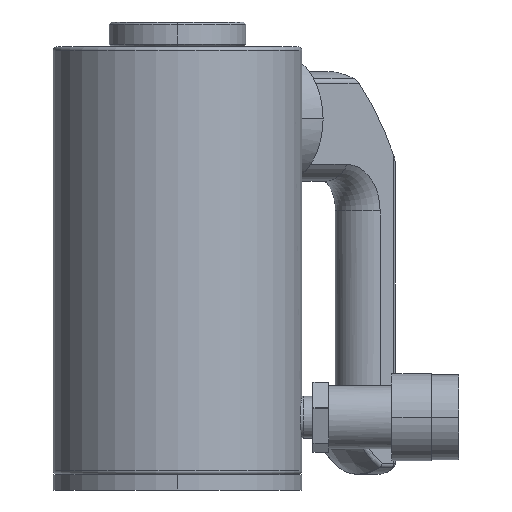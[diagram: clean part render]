
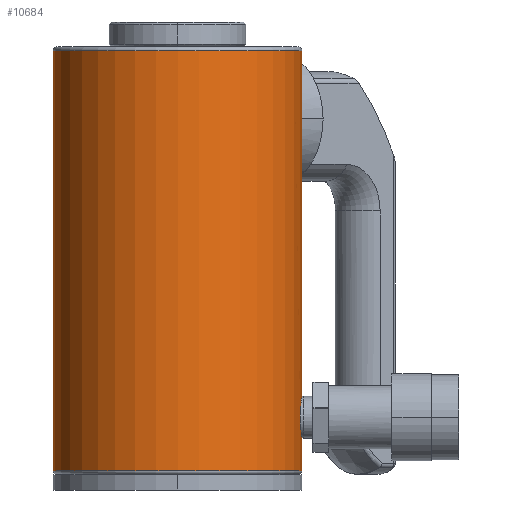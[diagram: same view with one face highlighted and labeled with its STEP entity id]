
A CAD part, left-side view. The second image highlights one B-rep face of the part: STEP entity #10684.
In plain terms, the highlighted cylindrical face has radius 50 mm (diameter 100 mm), a partial arc.
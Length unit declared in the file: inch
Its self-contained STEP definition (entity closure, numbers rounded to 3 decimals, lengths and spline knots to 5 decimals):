
#31=CARTESIAN_POINT('',(0.,-1.9685,-4.392));
#32=CARTESIAN_POINT('',(-0.00766,-1.9685,
-4.392));
#33=CARTESIAN_POINT('',(-0.02295,-1.96841,
-4.39253));
#34=CARTESIAN_POINT('',(-0.04584,-1.96801,
-4.39492));
#35=CARTESIAN_POINT('',(-0.06848,-1.96736,
-4.3989));
#36=CARTESIAN_POINT('',(-0.09087,-1.96645,
-4.40446));
#37=CARTESIAN_POINT('',(-0.11281,-1.96531,
-4.41156));
#38=CARTESIAN_POINT('',(-0.13428,-1.96396,
-4.42021));
#39=CARTESIAN_POINT('',(-0.1551,-1.96242,
-4.43034));
#40=CARTESIAN_POINT('',(-0.17523,-1.96072,
-4.44193));
#41=CARTESIAN_POINT('',(-0.19451,-1.9589,
-4.45493));
#42=CARTESIAN_POINT('',(-0.21286,-1.95699,
-4.46926));
#43=CARTESIAN_POINT('',(-0.23019,-1.95502,
-4.48488));
#44=CARTESIAN_POINT('',(-0.24637,-1.95305,
-4.50165));
#45=CARTESIAN_POINT('',(-0.26136,-1.95109,
-4.51956));
#46=CARTESIAN_POINT('',(-0.27503,-1.94921,
-4.53843));
#47=CARTESIAN_POINT('',(-0.28736,-1.94743,
-4.55823));
#48=CARTESIAN_POINT('',(-0.29824,-1.94579,
-4.57879));
#49=CARTESIAN_POINT('',(-0.30766,-1.94432,
-4.60007));
#50=CARTESIAN_POINT('',(-0.31556,-1.94305,
-4.6219));
#51=CARTESIAN_POINT('',(-0.32191,-1.94201,
-4.64419));
#52=CARTESIAN_POINT('',(-0.3267,-1.94121,
-4.66687));
#53=CARTESIAN_POINT('',(-0.32989,-1.94066,
-4.68977));
#54=CARTESIAN_POINT('',(-0.3315,-1.94039,
-4.71286));
#55=CARTESIAN_POINT('',(-0.3315,-1.94039,
-4.73595));
#56=CARTESIAN_POINT('',(-0.32989,-1.94066,
-4.75905));
#57=CARTESIAN_POINT('',(-0.3267,-1.94121,
-4.78195));
#58=CARTESIAN_POINT('',(-0.32191,-1.94201,
-4.80462));
#59=CARTESIAN_POINT('',(-0.31556,-1.94305,
-4.82692));
#60=CARTESIAN_POINT('',(-0.30766,-1.94432,
-4.84875));
#61=CARTESIAN_POINT('',(-0.29824,-1.94579,
-4.87002));
#62=CARTESIAN_POINT('',(-0.28736,-1.94743,
-4.89058));
#63=CARTESIAN_POINT('',(-0.27503,-1.94921,
-4.91039));
#64=CARTESIAN_POINT('',(-0.26136,-1.95109,
-4.92926));
#65=CARTESIAN_POINT('',(-0.24637,-1.95305,
-4.94717));
#66=CARTESIAN_POINT('',(-0.23019,-1.95502,
-4.96394));
#67=CARTESIAN_POINT('',(-0.21286,-1.95699,
-4.97956));
#68=CARTESIAN_POINT('',(-0.19451,-1.9589,
-4.99389));
#69=CARTESIAN_POINT('',(-0.17523,-1.96072,
-5.00688));
#70=CARTESIAN_POINT('',(-0.1551,-1.96242,
-5.01848));
#71=CARTESIAN_POINT('',(-0.13428,-1.96396,
-5.02861));
#72=CARTESIAN_POINT('',(-0.11281,-1.96531,
-5.03726));
#73=CARTESIAN_POINT('',(-0.09087,-1.96645,
-5.04436));
#74=CARTESIAN_POINT('',(-0.06848,-1.96736,
-5.04992));
#75=CARTESIAN_POINT('',(-0.04584,-1.96801,
-5.05389));
#76=CARTESIAN_POINT('',(-0.02295,-1.96841,
-5.05629));
#77=CARTESIAN_POINT('',(-0.00766,-1.9685,
-5.05682));
#78=CARTESIAN_POINT('',(0.,-1.9685,-5.05682));
#80=DIRECTION('',(0.,0.,1.));
#81=VECTOR('',#80,0.51405);
#82=CARTESIAN_POINT('',(0.,-1.9685,-5.57087));
#83=LINE('',#82,#81);
#84=CARTESIAN_POINT('',(0.,0.,-5.57087));
#85=DIRECTION('',(0.,0.,1.));
#86=DIRECTION('',(0.,1.,0.));
#87=AXIS2_PLACEMENT_3D('',#84,#85,#86);
#89=DIRECTION('',(0.,0.,1.));
#90=VECTOR('',#89,6.65354);
#91=CARTESIAN_POINT('',(0.,1.9685,-5.57087));
#92=LINE('',#91,#90);
#93=CARTESIAN_POINT('',(0.,0.,1.08268));
#94=DIRECTION('',(0.,0.,1.));
#95=DIRECTION('',(0.,1.,0.));
#96=AXIS2_PLACEMENT_3D('',#93,#94,#95);
#98=DIRECTION('',(0.,0.,1.));
#99=VECTOR('',#98,5.47468);
#100=CARTESIAN_POINT('',(0.,-1.9685,-4.392));
#101=LINE('',#100,#99);
#120=CARTESIAN_POINT('',(0.,-1.9685,-5.05682));
#167=CARTESIAN_POINT('',(0.,-1.9685,-4.392));
#9206=CARTESIAN_POINT('',(0.,-1.9685,1.08268));
#9207=CARTESIAN_POINT('',(0.,1.9685,1.08268));
#9208=VERTEX_POINT('',#9206);
#9209=VERTEX_POINT('',#9207);
#9210=CARTESIAN_POINT('',(0.,-1.9685,-5.57087));
#9211=CARTESIAN_POINT('',(0.,1.9685,-5.57087));
#9212=VERTEX_POINT('',#9210);
#9213=VERTEX_POINT('',#9211);
#10280=VERTEX_POINT('',#120);
#10281=VERTEX_POINT('',#167);
#10666=CARTESIAN_POINT('',(0.,0.,1.48031));
#10667=DIRECTION('',(0.,0.,-1.));
#10668=DIRECTION('',(0.,-1.,0.));
#10669=AXIS2_PLACEMENT_3D('',#10666,#10667,#10668);
#10670=CYLINDRICAL_SURFACE('',#10669,1.9685);
#10672=ORIENTED_EDGE('',*,*,#10671,.T.);
#10674=ORIENTED_EDGE('',*,*,#10673,.F.);
#10676=ORIENTED_EDGE('',*,*,#10675,.F.);
#10678=ORIENTED_EDGE('',*,*,#10677,.T.);
#10679=ORIENTED_EDGE('',*,*,#10660,.T.);
#10681=ORIENTED_EDGE('',*,*,#10680,.F.);
#10682=EDGE_LOOP('',(#10672,#10674,#10676,#10678,#10679,#10681));
#10683=FACE_OUTER_BOUND('',#10682,.F.);
#10684=ADVANCED_FACE('',(#10683),#10670,.T.);
#79=B_SPLINE_CURVE_WITH_KNOTS('',3,(#31,#32,#33,#34,#35,#36,#37,#38,#39,#40,#41,
#42,#43,#44,#45,#46,#47,#48,#49,#50,#51,#52,#53,#54,#55,#56,#57,#58,#59,#60,#61,
#62,#63,#64,#65,#66,#67,#68,#69,#70,#71,#72,#73,#74,#75,#76,#77,#78),
.UNSPECIFIED.,.F.,.F.,(4,1,1,1,1,1,1,1,1,1,1,1,1,1,1,1,1,1,1,1,1,1,1,1,1,1,1,1,
1,1,1,1,1,1,1,1,1,1,1,1,1,1,1,1,1,4),(0.,0.02222,0.04444,
0.06667,0.08889,0.11111,0.13333,
0.15556,0.17778,0.2,0.22222,0.24444,
0.26667,0.28889,0.31111,0.33333,
0.35556,0.37778,0.4,0.42222,0.44444,
0.46667,0.48889,0.51111,0.53333,
0.55556,0.57778,0.6,0.62222,0.64444,
0.66667,0.68889,0.71111,0.73333,
0.75556,0.77778,0.8,0.82222,0.84444,
0.86667,0.88889,0.91111,0.93333,
0.95556,0.97778,1.),.UNSPECIFIED.);
#88=CIRCLE('',#87,1.9685);
#97=CIRCLE('',#96,1.9685);
#10660=EDGE_CURVE('',#9209,#9208,#97,.T.);
#10671=EDGE_CURVE('',#10281,#10280,#79,.T.);
#10673=EDGE_CURVE('',#9212,#10280,#83,.T.);
#10675=EDGE_CURVE('',#9213,#9212,#88,.T.);
#10677=EDGE_CURVE('',#9213,#9209,#92,.T.);
#10680=EDGE_CURVE('',#10281,#9208,#101,.T.);
